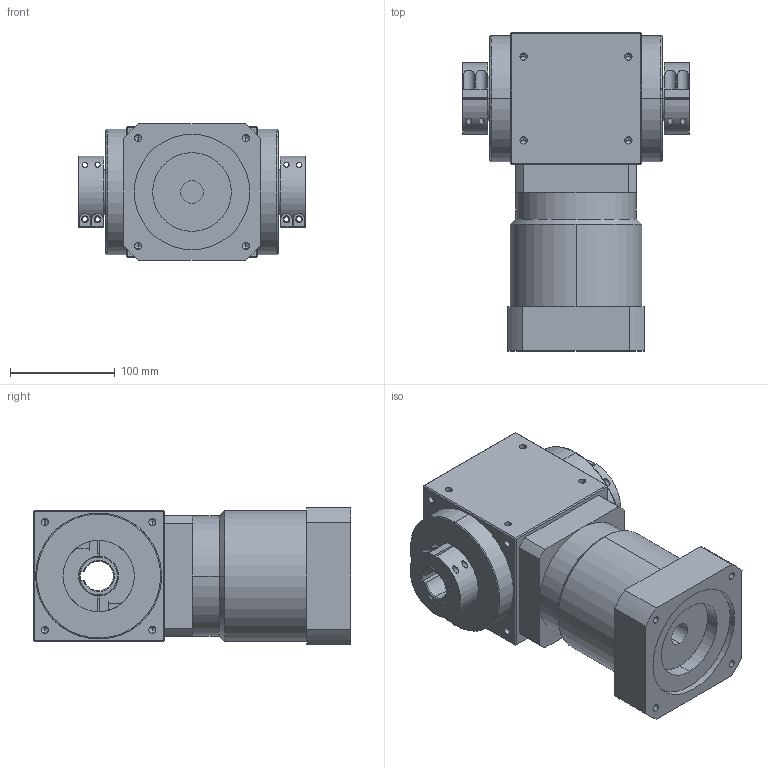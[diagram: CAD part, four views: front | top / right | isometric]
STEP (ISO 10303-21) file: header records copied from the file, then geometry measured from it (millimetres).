
FILE_DESCRIPTION (( 'STEP AP214' ), '1' );
FILE_NAME ('66666.STEP', '2020-12-07T02:46:02', ( '微软用户' ), ( '微软中国' ), 'SwSTEP 2.0', 'SolidWorks 2014', '' );
FILE_SCHEMA (( 'AUTOMOTIVE_DESIGN' ));
Length unit declared in the file: millimetre
Products named in the file (6): 125標杶_1; RXW125A-L2-2C-K-24-110-145-M8_1; 66666
Assembly tree (3 placements, depth 2):
  125標杶_1
  RXW125A-L2-2C-K-24-110-145-M8_1
  66666
    RXW125A-L2-2C-K-24-110-145-M8_1
    125標杶_1  x2
  125標杶_1
Bounding box: 216 x 303 x 130 mm (x, y, z)
Volume: 4599724.9 mm3; surface area: 269943.1 mm2
Topology: 5 solids, 5 shells, 285 faces, 700 edges, 412 vertices
Faces by surface type: cylinder 129, plane 92, cone 60, bspline 4
Entity records: 7414 total; most frequent: CARTESIAN_POINT 1720, DIRECTION 1220, ORIENTED_EDGE 1088, EDGE_CURVE 544, AXIS2_PLACEMENT_3D 472, VERTEX_POINT 340, EDGE_LOOP 298, LINE 276
